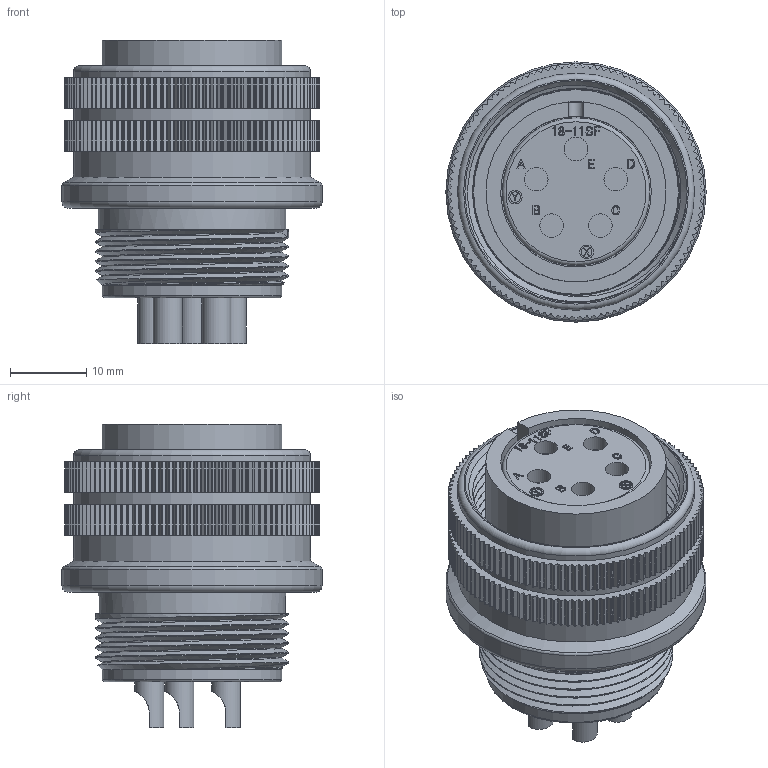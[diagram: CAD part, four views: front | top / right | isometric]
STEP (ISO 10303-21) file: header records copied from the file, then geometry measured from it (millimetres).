
FILE_DESCRIPTION (( 'STEP AP203' ), '1' );
FILE_NAME ('DMS3106A18-11S(D190).STEP', '2021-02-10T00:06:26', ( '' ), ( '' ), 'SwSTEP 2.0', 'SolidWorks 2018', '' );
FILE_SCHEMA (( 'CONFIG_CONTROL_DESIGN' ));
Length unit declared in the file: millimetre
Products named in the file (1): DMS3106A18-11S(D190)
Bounding box: 34.08 x 34.08 x 39.75 mm (x, y, z)
Volume: 18927.3 mm3; surface area: 13555.3 mm2
Topology: 1 solids, 1 shells, 1931 faces, 5540 edges, 3684 vertices
Faces by surface type: cylinder 957, plane 736, bspline 223, torus 12, cone 3
Full cylindrical faces by diameter (mm): 1.4 x2, 1.8 x2, 2.85 x5, 3.1 x5, 3.79 x5, 3.9 x5, 17.45 x1, 19.33 x1, 19.72 x1, 21.05 x1, 23.5 x1, 24.53 x1, 25.43 x1, 26.82 x1, 27.02 x1, 27.83 x1, 31.04 x3, 34.08 x1
Entity records: 72709 total; most frequent: CARTESIAN_POINT 22121, ORIENTED_EDGE 10948, DIRECTION 10310, EDGE_CURVE 5474, VERTEX_POINT 3666, AXIS2_PLACEMENT_3D 3608, LINE 3094, VECTOR 3094
